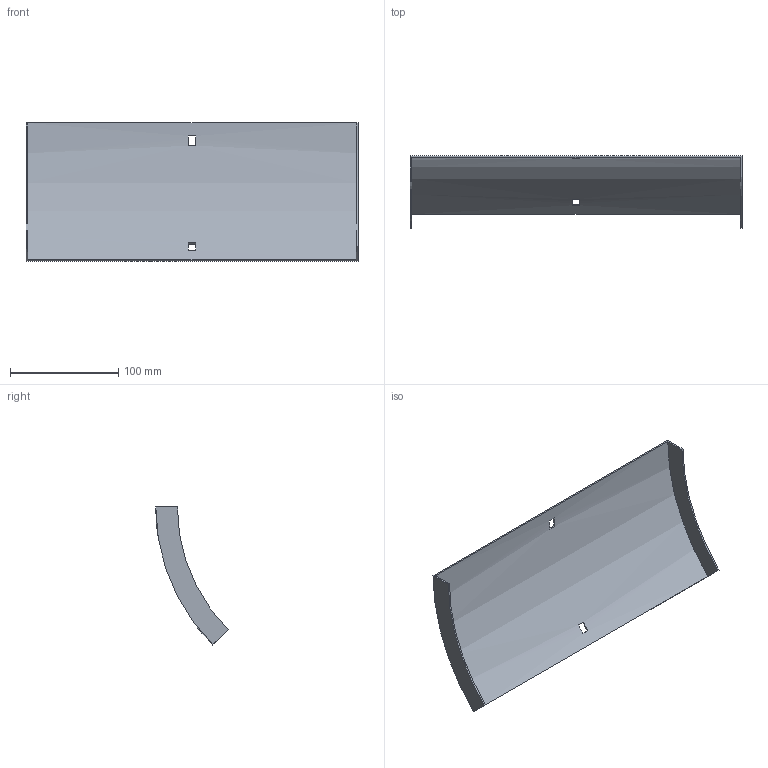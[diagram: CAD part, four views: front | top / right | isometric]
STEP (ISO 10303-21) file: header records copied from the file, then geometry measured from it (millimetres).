
FILE_DESCRIPTION (( 'STEP AP214' ), '1' );
FILE_NAME ('34N1C300.step', '2025-02-21T09:16:01', ( '' ), ( '' ), 'SwSTEP 2.0', 'SolidWorks 2023', '' );
FILE_SCHEMA (( 'AUTOMOTIVE_DESIGN' ));
Length unit declared in the file: millimetre
Products named in the file (1): 34N1C300
Bounding box: 307 x 67.01 x 127.63 mm (x, y, z)
Volume: 72234.3 mm3; surface area: 97817.8 mm2
Topology: 1 solids, 1 shells, 18 faces, 48 edges, 32 vertices
Faces by surface type: plane 14, cylinder 4
Entity records: 599 total; most frequent: DIRECTION 102, CARTESIAN_POINT 99, ORIENTED_EDGE 96, EDGE_CURVE 48, AXIS2_PLACEMENT_3D 35, VECTOR 32, VERTEX_POINT 32, LINE 32
